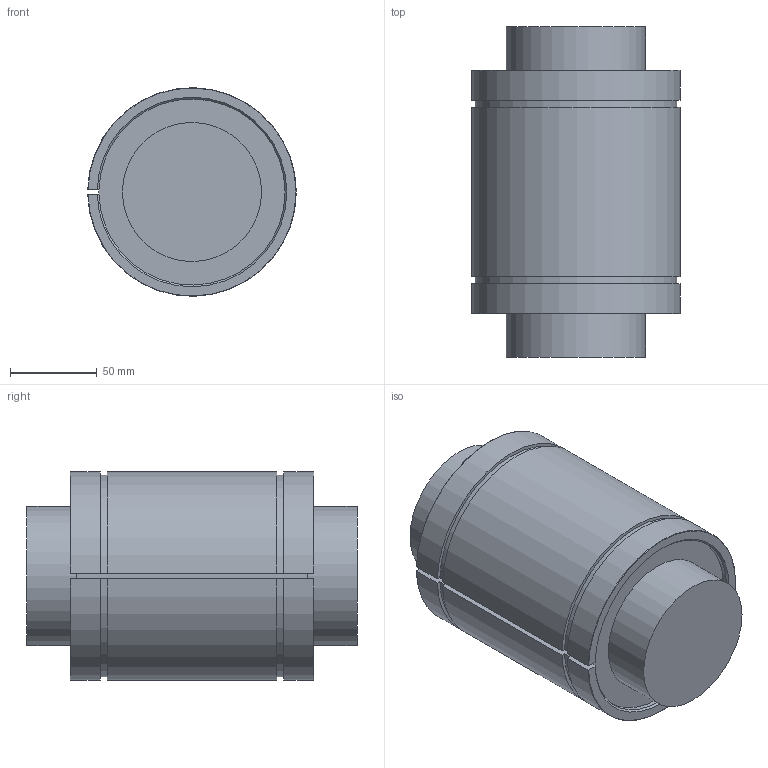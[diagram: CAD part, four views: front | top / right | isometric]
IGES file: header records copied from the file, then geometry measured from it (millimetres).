
Global section: file name: No Iges File Name specified; native system: Autodesk Inventor 2012; preprocessor: AutoDesk Inventor Iges Exporter R2012; author: user2; date: 20130206.101757; units: millimetre
Bounding box: 119.98 x 190 x 119.99 mm (x, y, z)
Volume: 1796169.6 mm3; surface area: 96399.3 mm2
Topology: 1 solids, 1 shells, 26 faces, 64 edges, 42 vertices
Faces by surface type: plane 12, cylinder 8, revolution 4, torus 2
Full cylindrical faces by diameter (mm): 80 x2
